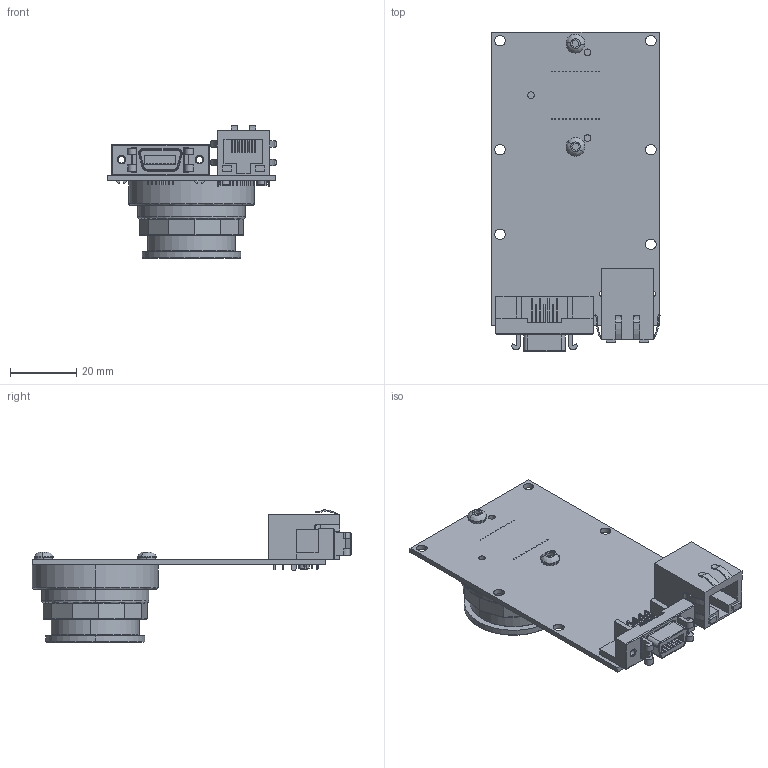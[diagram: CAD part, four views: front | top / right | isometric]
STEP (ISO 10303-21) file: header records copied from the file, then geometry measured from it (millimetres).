
FILE_DESCRIPTION (( 'STEP AP214' ), '1' );
FILE_NAME ('GB2450C.STEP', '2013-07-31T22:57:43', ( '' ), ( '' ), 'SwSTEP 2.0', 'SolidWorks 2013', '' );
FILE_SCHEMA (( 'AUTOMOTIVE_DESIGN' ));
Length unit declared in the file: millimetre
Products named in the file (19): 140004-LOW COST C-MOUNT CAP; 140008-washer spring lock #4; 100097A-IR FILTER ASSEMBLY 0.75 INCH; 110054AB-IR FILTER SUPPORT; 440002-IR CUT FILTER 22MM DIA; 110003AC-CV CMOUNT RING; 220118-SONY ICX625AQA; SONY ICX625 BODY; SONY ICX625 WINDOW; 140027-SCREW BUTTON M3x6 SS; 110031A-B EC-CCD LOCKING RING; GB2450C; 110094A-GB CCD GASKET; 200085B-GB2450-LS-RA; 110078A-GB MOUNT; 200083B-GB2450-LS; 210046B-GB1380-650-LS; 260039-3M 10214-55G3PC; 260036-HALO HFJ11-1G16E-L12RL
Assembly tree (20 placements, depth 4):
  GB2450C
    110031A-B EC-CCD LOCKING RING
    140027-SCREW BUTTON M3x6 SS  x2
    220118-SONY ICX625AQA
      SONY ICX625 WINDOW
      SONY ICX625 BODY
    110003AC-CV CMOUNT RING
    100097A-IR FILTER ASSEMBLY 0.75 INCH
      440002-IR CUT FILTER 22MM DIA
      110054AB-IR FILTER SUPPORT
    140008-washer spring lock #4  x2
    140004-LOW COST C-MOUNT CAP
    200085B-GB2450-LS-RA
      260036-HALO HFJ11-1G16E-L12RL
      260039-3M 10214-55G3PC
      200083B-GB2450-LS
        210046B-GB1380-650-LS
    110094A-GB CCD GASKET
    110078A-GB MOUNT
Bounding box: 51.12 x 96.77 x 40.25 mm (x, y, z)
Volume: 22157.6 mm3; surface area: 30559.2 mm2
Topology: 16 solids, 16 shells, 1483 faces, 3838 edges, 2437 vertices
Faces by surface type: plane 915, cylinder 348, cone 194, bspline 26
Entity records: 62286 total; most frequent: CARTESIAN_POINT 9229, ORIENTED_EDGE 7548, DIRECTION 7489, EDGE_CURVE 3774, VECTOR 2795, LINE 2795, VERTEX_POINT 2401, AXIS2_PLACEMENT_3D 2347
